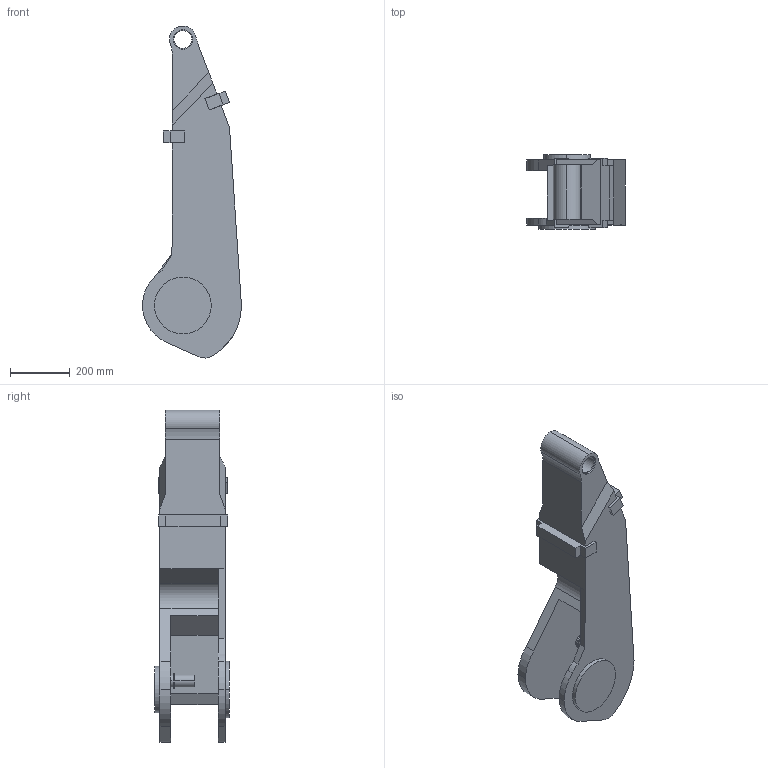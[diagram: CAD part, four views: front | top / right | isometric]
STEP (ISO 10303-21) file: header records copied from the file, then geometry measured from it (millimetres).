
FILE_DESCRIPTION (( 'STEP AP214' ), '1' );
FILE_NAME ('IRB4400_60-195_IRC5_rev02_LINK02_CAD.STEP', '2016-11-03T06:48:53', ( 'ABB' ), ( 'ABB' ), 'SwSTEP 2.0', 'SolidWorks 2014', '' );
FILE_SCHEMA (( 'AUTOMOTIVE_DESIGN' ));
Length unit declared in the file: millimetre
Products named in the file (1): IRB4400_60-195_IRC5_rev02_LINK02_CAD
Bounding box: 331 x 248.5 x 1110.73 mm (x, y, z)
Volume: 30827878.1 mm3; surface area: 1208823.7 mm2
Topology: 1 solids, 1 shells, 83 faces, 218 edges, 145 vertices
Faces by surface type: plane 52, cylinder 31
Entity records: 2738 total; most frequent: DIRECTION 450, CARTESIAN_POINT 447, ORIENTED_EDGE 436, EDGE_CURVE 218, LINE 154, VECTOR 154, AXIS2_PLACEMENT_3D 148, VERTEX_POINT 145
